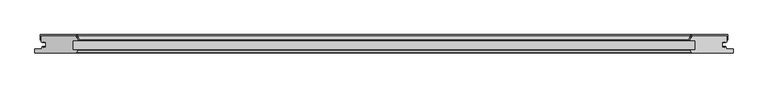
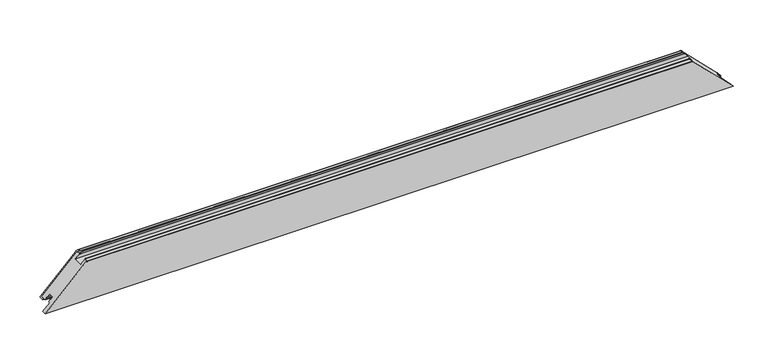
"""IFC4 building model written with IfcOpenShell, lengths in millimetres: proxy geometry, Weiku - Montante - Folha 02.2.01.019-039 : Weiku - Montante - Folha 02.2.01.019-039."""

import ifcopenshell
import ifcopenshell.guid

model = None  # the IFC model being written
_history = None  # IfcOwnerHistory: only IFC2X3 demands one
_inside = {}  # id of a spatial element -> (the spatial element, [elements in it])
_under = {}  # id of a project, library or spatial element -> (it, [spatial elements below it])
_declared = {}  # id of a project -> (the project, [libraries it declares])
_typed = {}  # id of a type object -> (the type object, [elements of that type])
_made_of = {}  # id of a material, layer set ... -> (it, [elements and type objects made of it])


def new_model(schema):
    """Start an empty IFC model of exactly this schema.

    Asked for "IFC4X3", IfcOpenShell would pick the latest addendum, in which some entities
    have other attributes; the version numbers below select the first issue.
    IFC2X3 requires an IfcOwnerHistory on every rooted entity: one is made here for all.
    """
    global model, _history
    if schema == "IFC4X3":
        model = ifcopenshell.file(schema_version=(4, 3, 0, 0))
    else:
        model = ifcopenshell.file(schema=schema)
    _inside.clear()
    _under.clear()
    _declared.clear()
    _typed.clear()
    _made_of.clear()
    _history = None
    if model.schema == "IFC2X3":
        org = make("IfcOrganization", Name="unknown")
        user = make(
            "IfcPersonAndOrganization",
            ThePerson=make("IfcPerson", FamilyName="unknown"),
            TheOrganization=org,
        )
        app = make(
            "IfcApplication",
            ApplicationDeveloper=org,
            Version="unknown",
            ApplicationFullName="unknown",
            ApplicationIdentifier="unknown",
        )
        _history = make(
            "IfcOwnerHistory",
            OwningUser=user,
            OwningApplication=app,
            ChangeAction="ADDED",
            CreationDate=0,
        )
    return model


def make(cls, **values):
    """One entity of the class cls with the attributes given. An attribute that is None is left unset."""
    return model.create_entity(
        cls, **{name: value for name, value in values.items() if value is not None}
    )


def rooted(cls, **values):
    """An entity with a GlobalId (a new one), such as an element, a storey or a relation."""
    return make(cls, GlobalId=ifcopenshell.guid.new(), OwnerHistory=_history, **values)


def si_unit(unit_type, name, prefix=None):
    """IfcSIUnit, for example si_unit("LENGTHUNIT", "METRE", prefix="MILLI")."""
    return make("IfcSIUnit", UnitType=unit_type, Prefix=prefix, Name=name)


def assignment(units):
    """IfcUnitAssignment: the units of a project."""
    return None if units is None else make("IfcUnitAssignment", Units=units)


def point(xyz):
    """IfcCartesianPoint."""
    return None if xyz is None else make("IfcCartesianPoint", Coordinates=xyz)


def direction(xyz):
    """IfcDirection."""
    return None if xyz is None else make("IfcDirection", DirectionRatios=xyz)


def frame(location, z_axis=None, x_axis=None):
    """IfcAxis2Placement3D, a coordinate frame: its origin and axes. An axis left out is left unset."""
    return make(
        "IfcAxis2Placement3D",
        Location=point(location),
        Axis=direction(z_axis),
        RefDirection=direction(x_axis),
    )


def origin():
    """The frame at (0, 0, 0) with its axes left unset."""
    return frame((0.0, 0.0, 0.0))


def place(relative_to, where):
    """IfcLocalPlacement: puts the frame where relative to a parent placement (None: the world)."""
    return make(
        "IfcLocalPlacement", PlacementRelTo=relative_to, RelativePlacement=where
    )


def context(
    kind, dimensions, precision=None, world=None, true_north=None, identifier=None
):
    """IfcGeometricRepresentationContext, for example the 3D "Model" context."""
    return make(
        "IfcGeometricRepresentationContext",
        ContextIdentifier=identifier,
        ContextType=kind,
        CoordinateSpaceDimension=dimensions,
        Precision=precision,
        WorldCoordinateSystem=world,
        TrueNorth=true_north,
    )


def project(units=None, contexts=None):
    """IfcProject with its units and contexts."""
    return rooted(
        "IfcProject",
        Name="project",
        RepresentationContexts=contexts,
        UnitsInContext=assignment(units),
    )


def spatial(cls, under=None, at=None, **own):
    """A site, building, storey or space (cls), placed at a placement, below another one or the project."""
    s = rooted(cls, ObjectPlacement=at, **own)
    if under is not None:
        _under.setdefault(under.id(), (under, []))[1].append(s)
    return s


def polyline(points):
    """IfcPolyline through the points."""
    return make("IfcPolyline", Points=[point(p) for p in points])


def ellipse_curve(where, semi_axis1, semi_axis2):
    """IfcEllipse in the frame where."""
    return make(
        "IfcEllipse", Position=where, SemiAxis1=semi_axis1, SemiAxis2=semi_axis2
    )


def shape(context_of_items, identifier, shape_type, items):
    """IfcShapeRepresentation: the items that make up one representation, for example the "Body"."""
    return make(
        "IfcShapeRepresentation",
        ContextOfItems=context_of_items,
        RepresentationIdentifier=identifier,
        RepresentationType=shape_type,
        Items=items,
    )


def source(mapping_origin, context_of_items, identifier, shape_type, items):
    """IfcRepresentationMap: a shape defined once, which mapped items show again and again."""
    return make(
        "IfcRepresentationMap",
        MappingOrigin=mapping_origin,
        MappedRepresentation=shape(context_of_items, identifier, shape_type, items),
    )


def transform(
    local_origin,
    x_axis=None,
    y_axis=None,
    z_axis=None,
    scale=None,
    scale2=None,
    scale3=None,
    uniform=True,
):
    """IfcCartesianTransformationOperator3D, or its non-uniform kind. x_axis, y_axis, z_axis: its Axis1, 2, 3."""
    if uniform:
        return make(
            "IfcCartesianTransformationOperator3D",
            Axis1=direction(x_axis),
            Axis2=direction(y_axis),
            LocalOrigin=point(local_origin),
            Scale=scale,
            Axis3=direction(z_axis),
        )
    return make(
        "IfcCartesianTransformationOperator3DnonUniform",
        Axis1=direction(x_axis),
        Axis2=direction(y_axis),
        LocalOrigin=point(local_origin),
        Scale=scale,
        Axis3=direction(z_axis),
        Scale2=scale2,
        Scale3=scale3,
    )


def mapped(mapping_source, mapping_target):
    """IfcMappedItem: shows the shape of a source again, moved by a transform."""
    return make(
        "IfcMappedItem", MappingSource=mapping_source, MappingTarget=mapping_target
    )


def made_of(thing, what):
    """Note that an element or type object is made of a material, layer set ...; save() writes the relation."""
    if what is not None:
        _made_of.setdefault(what.id(), (what, []))[1].append(thing)
    return thing


def element(
    cls,
    number,
    at=None,
    inside=None,
    cuts=None,
    type_object=None,
    material=None,
    context=None,
    identifier="Body",
    shape_type=None,
    held_by="IfcProductDefinitionShape",
    body=None,
    shapes=None,
    **own,
):
    """One element of the class cls, such as IfcWall. Its Tag is "e" and its number.

    at: its placement. inside: the storey or other place that contains it. cuts: it is an
    opening in that element (IfcRelVoidsElement). A single representation is given by context,
    identifier, shape_type and body (its items); several are given by shapes. held_by: the class
    of the entity that holds the representations. save() writes the other relations.
    """
    e = rooted(cls, Tag="e%d" % number, ObjectPlacement=at, **own)
    if body is not None:
        shapes = [shape(context, identifier, shape_type, body)]
    if shapes is not None:
        e.Representation = make(held_by, Representations=shapes)
    if inside is not None:
        _inside.setdefault(inside.id(), (inside, []))[1].append(e)
    if cuts is not None:
        rooted(
            "IfcRelVoidsElement", RelatingBuildingElement=cuts, RelatedOpeningElement=e
        )
    if type_object is not None:
        _typed.setdefault(type_object.id(), (type_object, []))[1].append(e)
    return made_of(e, material)


def aggregate(whole, parts):
    """IfcRelAggregates: a whole, such as a stair, and the parts it consists of."""
    return rooted("IfcRelAggregates", RelatingObject=whole, RelatedObjects=parts)


def save(model, path):
    """Write the relations noted so far, then the file.

    IfcRelAggregates (storeys below a building ...), IfcRelContainedInSpatialStructure (elements
    in a storey), IfcRelDefinesByType, IfcRelAssociatesMaterial and IfcRelDeclares: one each for
    every whole, place, type object, material and project.
    """
    for whole, parts in _under.values():
        aggregate(whole, parts)
    for where, things in _inside.values():
        rooted(
            "IfcRelContainedInSpatialStructure",
            RelatedElements=things,
            RelatingStructure=where,
        )
    for kind, things in _typed.values():
        rooted("IfcRelDefinesByType", RelatedObjects=things, RelatingType=kind)
    for what, things in _made_of.values():
        rooted("IfcRelAssociatesMaterial", RelatedObjects=things, RelatingMaterial=what)
    for by, libraries in _declared.values():
        rooted("IfcRelDeclares", RelatingContext=by, RelatedDefinitions=libraries)
    model.write(path)


def plane_surface(at):
    """IfcPlane: the flat surface through the origin of the frame at, square to its z axis."""
    return make("IfcPlane", Position=at)


def cylinder_surface(at, radius):
    """IfcCylindricalSurface: all points at the distance radius from the z axis of the frame at."""
    return make("IfcCylindricalSurface", Position=at, Radius=radius)


def revolved_surface(curve, axis_point, axis_direction):
    """IfcSurfaceOfRevolution: the curve turned about the line through axis_point along axis_direction."""
    return make(
        "IfcSurfaceOfRevolution",
        SweptCurve=make("IfcArbitraryOpenProfileDef", ProfileType="CURVE", Curve=curve),
        AxisPosition=make("IfcAxis1Placement", Location=point(axis_point), Axis=direction(axis_direction)),
    )


def advanced_brep(points, edges, surfaces, faces):
    """IfcAdvancedBrep: a solid bounded by faces that lie on surfaces and meet in shared edges.

    An edge is (start, end): straight between two places in points (the first is 0);
    or (start, end, curve); or (start, end, curve, False) where it runs against its curve.
    A face is (place in surfaces, loops), or (place, loops, False) where it looks against
    its surface's normal. A loop lists edges by number (the first is 1), with a minus sign
    where the edge is run from its end to its start. The first loop is the outer one.
    """
    corners = [point(p) for p in points]
    vertices = [make("IfcVertexPoint", VertexGeometry=c) for c in corners]
    made = []
    for start, end, *more in edges:
        made.append(
            make(
                "IfcEdgeCurve",
                EdgeStart=vertices[start],
                EdgeEnd=vertices[end],
                EdgeGeometry=more[0] if more else make("IfcPolyline", Points=[corners[start], corners[end]]),
                SameSense=more[1] if len(more) > 1 else True,
            )
        )
    hull = []
    for where, loops, *sense in faces:
        bounds = []
        for j, loop in enumerate(loops):
            ring = [make("IfcOrientedEdge", EdgeElement=made[abs(k) - 1], Orientation=k > 0) for k in loop]
            bounds.append(
                make(
                    "IfcFaceOuterBound" if j == 0 else "IfcFaceBound",
                    Bound=make("IfcEdgeLoop", EdgeList=ring),
                    Orientation=True,
                )
            )
        hull.append(make("IfcAdvancedFace", Bounds=bounds, FaceSurface=surfaces[where], SameSense=sense[0] if sense else True))
    return make("IfcAdvancedBrep", Outer=make("IfcClosedShell", CfsFaces=hull))


def generic_models_20642530(model_context):
    return source(origin(), model_context, "Body", "AdvancedBrep", [
        advanced_brep(
        [(1003.5000338, 50.0, 17.9999662), (901.9977922, 50.0, 119.5022078), (899.1000147, 47.7764571, 122.3999853), (896.5150961, 38.1294095, 124.9849039), (896.998059, 37.5, 124.501941), (910.498059, 37.5, 111.001941), (910.498059, 9.5, 111.001941), (897.7114874, 9.5, 123.7885126), (896.5493385, 7.617411, 124.9506615), (900.0913247, 0.5518546, 121.4086753), (900.9852854, 0.0, 120.5147146), (1021.5, 0.0, 0.0), (1021.5, 12.5, 0.0), (1001.5, 12.5, 20.0), (1001.5, 16.9, 20.0), (999.3, 16.9, 22.2), (999.3, 18.9, 22.2), (996.5, 18.9, 25.0), (996.5, 16.9, 25.0), (990.0, 16.9, 31.5), (990.0, 33.1, 31.5), (996.5, 33.1, 25.0), (996.5, 31.1, 25.0), (999.3, 31.1, 22.2), (999.3, 33.1, 22.2), (1003.5000338, 33.1, 17.9999662), (-901.9977922, 50.0, 119.5022078), (-1003.5000338, 50.0, 17.9999662), (-1003.5000338, 33.1, 17.9999662), (-999.3, 33.1, 22.2), (-999.3, 31.1, 22.2), (-996.5, 31.1, 25.0), (-996.5, 33.1, 25.0), (-990.0, 33.1, 31.5), (-990.0, 16.9, 31.5), (-996.5, 16.9, 25.0), (-996.5, 18.9, 25.0), (-999.3, 18.9, 22.2), (-999.3, 16.9, 22.2), (-1001.5, 16.9, 20.0), (-1001.5, 12.5, 20.0), (-1021.5, 12.5, 0.0), (-1021.5, 0.0, 0.0), (-900.9852854, 0.0, 120.5147146), (-900.0913247, 0.5518546, 121.4086753), (-896.5493385, 7.617411, 124.9506615), (-897.7114874, 9.5, 123.7885126), (-910.498059, 9.5, 111.001941), (-910.498059, 37.5, 111.001941), (-896.998059, 37.5, 124.501941), (-896.5150961, 38.1294095, 124.9849039), (-899.1000147, 47.7764571, 122.3999853)],
        [
            (0, 1),
            (1, 2, ellipse_curve(frame((901.9977922, 47.0, 119.5022078), z_axis=(0.7071067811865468, 0.0, 0.7071067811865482), x_axis=(-0.7071067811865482, 0.0, 0.7071067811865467)), 4.2426407, 3.0)),
            (2, 3),
            (3, 4, ellipse_curve(frame((896.998059, 38.0, 124.501941), z_axis=(0.7071067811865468, 0.0, 0.7071067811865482), x_axis=(-0.7071067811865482, 0.0, 0.7071067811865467)), 0.7071068, 0.5)),
            (4, 5),
            (5, 6),
            (6, 7),
            (7, 8, ellipse_curve(frame((897.7114874, 8.2, 123.7885126), z_axis=(0.7071067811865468, 0.0, 0.7071067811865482), x_axis=(-0.7071067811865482, 0.0, 0.7071067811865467)), 1.8384776, 1.3)),
            (8, 9),
            (9, 10, ellipse_curve(frame((900.9852854, 1.0, 120.5147146), z_axis=(0.7071067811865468, 0.0, 0.7071067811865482), x_axis=(-0.7071067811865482, 0.0, 0.7071067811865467)), 1.4142136, 1.0)),
            (10, 11),
            (11, 12),
            (12, 13),
            (13, 14),
            (14, 15),
            (15, 16),
            (16, 17),
            (17, 18),
            (18, 19),
            (19, 20),
            (20, 21),
            (21, 22),
            (22, 23),
            (23, 24),
            (24, 25),
            (25, 0),
            (26, 27),
            (27, 28),
            (28, 29),
            (29, 30),
            (30, 31),
            (31, 32),
            (32, 33),
            (33, 34),
            (34, 35),
            (35, 36),
            (36, 37),
            (37, 38),
            (38, 39),
            (39, 40),
            (40, 41),
            (41, 42),
            (42, 43),
            (43, 44, ellipse_curve(frame((-900.9852854, 1.0, 120.5147146), z_axis=(-0.7071067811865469, 0.0, 0.7071067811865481), x_axis=(-0.7071067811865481, 0.0, -0.7071067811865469)), 1.4142136, 1.0)),
            (44, 45),
            (45, 46, ellipse_curve(frame((-897.7114874, 8.2, 123.7885126), z_axis=(-0.7071067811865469, 0.0, 0.7071067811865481), x_axis=(-0.7071067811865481, 0.0, -0.7071067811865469)), 1.8384776, 1.3)),
            (46, 47),
            (47, 48),
            (48, 49),
            (49, 50, ellipse_curve(frame((-896.998059, 38.0, 124.501941), z_axis=(-0.7071067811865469, 0.0, 0.7071067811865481), x_axis=(-0.7071067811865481, 0.0, -0.7071067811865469)), 0.7071068, 0.5)),
            (50, 51),
            (51, 26, ellipse_curve(frame((-901.9977922, 47.0, 119.5022078), z_axis=(-0.7071067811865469, 0.0, 0.7071067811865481), x_axis=(-0.7071067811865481, 0.0, -0.7071067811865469)), 4.2426407, 3.0)),
            (0, 27),
            (26, 1),
            (25, 28),
            (24, 29),
            (23, 30),
            (22, 31),
            (21, 32),
            (20, 33),
            (19, 34),
            (18, 35),
            (17, 36),
            (16, 37),
            (15, 38),
            (14, 39),
            (13, 40),
            (12, 41),
            (11, 42),
            (10, 43),
            (9, 44),
            (8, 45),
            (7, 46),
            (6, 47),
            (5, 48),
            (4, 49),
            (3, 50),
            (2, 51),
        ],
        [
            plane_surface(frame((891.5, -13.0, 130.0), z_axis=(0.7071067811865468, 0.0, 0.7071067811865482), x_axis=(0.0, 1.0, 0.0))),
            plane_surface(frame((-1049.7842712, -13.0, -28.2842712), z_axis=(-0.7071067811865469, 0.0, 0.7071067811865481), x_axis=(0.0, 1.0, 0.0))),
            plane_surface(frame((-1021.5, 50.0, 119.5022078), z_axis=(0.0, 1.0, 0.0), x_axis=(1.0, 0.0, 0.0))),
            plane_surface(frame((-1021.5, 50.0, 17.9999662), z_axis=(0.0, 0.0, -1.0), x_axis=(1.0, 0.0, 0.0))),
            plane_surface(frame((-1021.5, 33.1, 17.9999662), z_axis=(0.0, -1.0, 0.0), x_axis=(1.0, 0.0, 0.0))),
            plane_surface(frame((-1021.5, 33.1, 22.2), z_axis=(0.0, 0.0, -1.0), x_axis=(1.0, 0.0, 0.0))),
            plane_surface(frame((-1021.5, 31.1, 22.2), z_axis=(0.0, -1.0, 0.0), x_axis=(1.0, 0.0, 0.0))),
            plane_surface(frame((-1021.5, 31.1, 25.0), z_axis=(0.0, 0.0, 1.0), x_axis=(1.0, 0.0, 0.0))),
            plane_surface(frame((-1021.5, 33.1, 25.0), z_axis=(0.0, -1.0, 0.0), x_axis=(1.0, 0.0, 0.0))),
            plane_surface(frame((-1021.5, 33.1, 31.5), z_axis=(0.0, 0.0, -1.0), x_axis=(1.0, 0.0, 0.0))),
            plane_surface(frame((-1021.5, 16.9, 31.5), z_axis=(0.0, 1.0, 0.0), x_axis=(1.0, 0.0, 0.0))),
            plane_surface(frame((-1021.5, 16.9, 25.0), z_axis=(0.0, 0.0, 1.0), x_axis=(1.0, 0.0, 0.0))),
            plane_surface(frame((-1021.5, 18.9, 25.0), z_axis=(0.0, 1.0, 0.0), x_axis=(1.0, 0.0, 0.0))),
            plane_surface(frame((-1021.5, 18.9, 22.2), z_axis=(0.0, 0.0, -1.0), x_axis=(1.0, 0.0, 0.0))),
            plane_surface(frame((-1021.5, 16.9, 22.2), z_axis=(0.0, 1.0, 0.0), x_axis=(1.0, 0.0, 0.0))),
            plane_surface(frame((-1021.5, 16.9, 20.0), z_axis=(0.0, 0.0, -1.0), x_axis=(1.0, 0.0, 0.0))),
            plane_surface(frame((-1021.5, 12.5, 20.0), z_axis=(0.0, 1.0, 0.0), x_axis=(1.0, 0.0, 0.0))),
            plane_surface(frame((-1021.5, 12.5, 0.0), z_axis=(0.0, 0.0, -1.0), x_axis=(1.0, 0.0, 0.0))),
            plane_surface(frame((-1021.5, 0.0, 0.0), z_axis=(0.0, -1.0, 0.0), x_axis=(1.0, 0.0, 0.0))),
            cylinder_surface(frame((-1021.5, 1.0, 120.5147146), z_axis=(-1.0, 0.0, 0.0), x_axis=(0.0, 1.0, 0.0)), 1.0),
            plane_surface(frame((-1021.5, 0.5518546, 121.4086753), z_axis=(0.0, -0.4481453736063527, 0.8939606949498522), x_axis=(1.0, 0.0, 0.0))),
            cylinder_surface(frame((-1021.5, 8.2, 123.7885126), z_axis=(-1.0, 0.0, 0.0), x_axis=(0.0, 1.0, 0.0)), 1.3),
            plane_surface(frame((-1021.5, 9.5, 123.7885126), z_axis=(0.0, 1.0, 0.0), x_axis=(1.0, 0.0, 0.0))),
            plane_surface(frame((-1021.5, 9.5, 111.001941), z_axis=(0.0, 0.0, 1.0), x_axis=(1.0, 0.0, 0.0))),
            plane_surface(frame((-1021.5, 37.5, 111.001941), z_axis=(0.0, -1.0, 0.0), x_axis=(1.0, 0.0, 0.0))),
            cylinder_surface(frame((-1021.5, 38.0, 124.501941), z_axis=(-1.0, 0.0, 0.0), x_axis=(0.0, 1.0, 0.0)), 0.5),
            plane_surface(frame((-1021.5, 38.1294095, 124.9849039), z_axis=(0.0, 0.2588190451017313, 0.9659258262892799), x_axis=(1.0, 0.0, 0.0))),
            cylinder_surface(frame((-1021.5, 47.0, 119.5022078), z_axis=(-1.0, 0.0, 0.0), x_axis=(0.0, 1.0, 0.0)), 3.0),
        ],
        [
            (0, [[1, 2, 3, 4, 5, 6, 7, 8, 9, 10, 11, 12, 13, 14, 15, 16, 17, 18, 19, 20, 21, 22, 23, 24, 25, 26]]),
            (1, [[27, 28, 29, 30, 31, 32, 33, 34, 35, 36, 37, 38, 39, 40, 41, 42, 43, 44, 45, 46, 47, 48, 49, 50, 51, 52]]),
            (2, [[-1, 53, -27, 54]]),
            (3, [[-26, 55, -28, -53]]),
            (4, [[-25, 56, -29, -55]]),
            (5, [[-24, 57, -30, -56]]),
            (6, [[-23, 58, -31, -57]]),
            (7, [[-22, 59, -32, -58]]),
            (8, [[-21, 60, -33, -59]]),
            (9, [[-20, 61, -34, -60]]),
            (10, [[-19, 62, -35, -61]]),
            (11, [[-18, 63, -36, -62]]),
            (12, [[-17, 64, -37, -63]]),
            (13, [[-16, 65, -38, -64]]),
            (14, [[-15, 66, -39, -65]]),
            (15, [[-14, 67, -40, -66]]),
            (16, [[68, -41, -67, -13]]),
            (17, [[-68, -12, 69, -42]]),
            (18, [[-69, -11, 70, -43]]),
            (19, [[-10, 71, -44, -70]]),
            (20, [[-9, 72, -45, -71]]),
            (21, [[-8, 73, -46, -72]]),
            (22, [[-7, 74, -47, -73]]),
            (23, [[-6, 75, -48, -74]]),
            (24, [[-5, 76, -49, -75]]),
            (25, [[-4, 77, -50, -76]]),
            (26, [[-3, 78, -51, -77]]),
            (27, [[-2, -54, -52, -78]]),
        ],
    ),
        advanced_brep(
        [(901.9977922, 50.0, 119.5022078), (1003.5000338, 50.0, 17.9999662), (1003.5000338, 38.5, 17.9999662), (1006.5000338, 38.5, 14.9999662), (1006.5000338, 52.0, 14.9999662), (1004.5000338, 54.0, 16.9999662), (900.4631382, 54.0, 121.0368618), (895.633509, 50.2940952, 125.866491), (892.2746919, 37.758819, 129.2253081), (893.2406177, 36.5, 128.2593823), (897.8540691, 36.5, 123.6459309), (897.8540691, 37.5, 123.6459309), (896.998059, 37.5, 124.501941), (896.5150961, 38.1294095, 124.9849039), (899.1000147, 47.7764571, 122.3999853), (-1003.5000338, 50.0, 17.9999662), (-901.9977922, 50.0, 119.5022078), (-899.1000147, 47.7764571, 122.3999853), (-896.5150961, 38.1294095, 124.9849039), (-896.998059, 37.5, 124.501941), (-897.8540691, 37.5, 123.6459309), (-897.8540691, 36.5, 123.6459309), (-893.2406177, 36.5, 128.2593823), (-892.2746919, 37.758819, 129.2253081), (-895.633509, 50.2940952, 125.866491), (-900.4631382, 54.0, 121.0368618), (-1004.5000338, 54.0, 16.9999662), (-1006.5000338, 52.0, 14.9999662), (-1006.5000338, 38.5, 14.9999662), (-1003.5000338, 38.5, 17.9999662)],
        [
            (0, 1),
            (1, 2),
            (2, 3),
            (3, 4),
            (4, 5, ellipse_curve(frame((1004.5000338, 52.0, 16.9999662), z_axis=(0.7071067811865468, 0.0, 0.7071067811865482), x_axis=(-0.7071067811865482, 0.0, 0.7071067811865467)), 2.8284271, 2.0)),
            (5, 6),
            (6, 7, ellipse_curve(frame((900.4631382, 49.0, 121.0368618), z_axis=(0.7071067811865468, 0.0, 0.7071067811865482), x_axis=(-0.7071067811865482, 0.0, 0.7071067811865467)), 7.0710678, 5.0)),
            (7, 8),
            (8, 9, ellipse_curve(frame((893.2406177, 37.5, 128.2593823), z_axis=(0.7071067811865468, 0.0, 0.7071067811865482), x_axis=(-0.7071067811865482, 0.0, 0.7071067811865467)), 1.4142136, 1.0)),
            (9, 10),
            (10, 11, ellipse_curve(frame((897.8540691, 37.0, 123.6459309), z_axis=(0.7071067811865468, 0.0, 0.7071067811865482), x_axis=(-0.7071067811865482, 0.0, 0.7071067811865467)), 0.7071068, 0.5)),
            (11, 12),
            (12, 13, ellipse_curve(frame((896.998059, 38.0, 124.501941), z_axis=(-0.7071067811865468, 0.0, -0.7071067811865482), x_axis=(0.7071067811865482, 0.0, -0.7071067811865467)), 0.7071068, 0.5)),
            (13, 14),
            (14, 0, ellipse_curve(frame((901.9977922, 47.0, 119.5022078), z_axis=(-0.7071067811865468, 0.0, -0.7071067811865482), x_axis=(0.7071067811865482, 0.0, -0.7071067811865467)), 4.2426407, 3.0)),
            (15, 16),
            (16, 17, ellipse_curve(frame((-901.9977922, 47.0, 119.5022078), z_axis=(0.7071067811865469, 0.0, -0.7071067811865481), x_axis=(0.7071067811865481, 0.0, 0.7071067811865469)), 4.2426407, 3.0)),
            (17, 18),
            (18, 19, ellipse_curve(frame((-896.998059, 38.0, 124.501941), z_axis=(0.7071067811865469, 0.0, -0.7071067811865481), x_axis=(0.7071067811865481, 0.0, 0.7071067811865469)), 0.7071068, 0.5)),
            (19, 20),
            (20, 21, ellipse_curve(frame((-897.8540691, 37.0, 123.6459309), z_axis=(-0.7071067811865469, 0.0, 0.7071067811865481), x_axis=(-0.7071067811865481, 0.0, -0.7071067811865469)), 0.7071068, 0.5)),
            (21, 22),
            (22, 23, ellipse_curve(frame((-893.2406177, 37.5, 128.2593823), z_axis=(-0.7071067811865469, 0.0, 0.7071067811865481), x_axis=(-0.7071067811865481, 0.0, -0.7071067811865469)), 1.4142136, 1.0)),
            (23, 24),
            (24, 25, ellipse_curve(frame((-900.4631382, 49.0, 121.0368618), z_axis=(-0.7071067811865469, 0.0, 0.7071067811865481), x_axis=(-0.7071067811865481, 0.0, -0.7071067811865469)), 7.0710678, 5.0)),
            (25, 26),
            (26, 27, ellipse_curve(frame((-1004.5000338, 52.0, 16.9999662), z_axis=(-0.7071067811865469, 0.0, 0.7071067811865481), x_axis=(-0.7071067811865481, 0.0, -0.7071067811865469)), 2.8284271, 2.0)),
            (27, 28),
            (28, 29),
            (29, 15),
            (0, 16),
            (15, 1),
            (14, 17),
            (13, 18),
            (12, 19),
            (11, 20),
            (10, 21),
            (9, 22),
            (8, 23),
            (7, 24),
            (6, 25),
            (5, 26),
            (4, 27),
            (3, 28),
            (2, 29),
        ],
        [
            plane_surface(frame((891.5, -13.0, 130.0), z_axis=(0.7071067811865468, 0.0, 0.7071067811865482), x_axis=(0.0, 1.0, 0.0))),
            plane_surface(frame((-1049.7842712, -13.0, -28.2842712), z_axis=(-0.7071067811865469, 0.0, 0.7071067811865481), x_axis=(0.0, 1.0, 0.0))),
            plane_surface(frame((-1041.5, 50.0, 17.9999662), z_axis=(0.0, -1.0, 0.0), x_axis=(1.0, 0.0, 0.0))),
            revolved_surface(polyline([(904.9977922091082, 50.0, 119.5022078), (-904.9977922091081, 50.0, 119.5022078)]), (-1041.5, 47.0, 119.5022078), (1.0, 0.0, 0.0)),
            plane_surface(frame((-1041.5, 47.7764571, 122.3999853), z_axis=(0.0, -0.25881904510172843, -0.9659258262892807), x_axis=(1.0, 0.0, 0.0))),
            revolved_surface(polyline([(897.4980590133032, 38.5, 124.501941), (-897.4980590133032, 38.5, 124.501941)]), (-1041.5, 38.0, 124.501941), (1.0, 0.0, 0.0)),
            plane_surface(frame((-1041.5, 37.5, 124.501941), z_axis=(0.0, 1.0, 0.0), x_axis=(1.0, 0.0, 0.0))),
            cylinder_surface(frame((-1041.5, 37.0, 123.6459309), z_axis=(-1.0, 0.0, 0.0), x_axis=(0.0, 1.0, 0.0)), 0.5),
            plane_surface(frame((-1041.5, 36.5, 123.6459309), z_axis=(0.0, -1.0, 0.0), x_axis=(1.0, 0.0, 0.0))),
            cylinder_surface(frame((-1041.5, 37.5, 128.2593823), z_axis=(-1.0, 0.0, 0.0), x_axis=(0.0, 1.0, 0.0)), 1.0),
            plane_surface(frame((-1041.5, 37.758819, 129.2253081), z_axis=(0.0, 0.25881904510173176, 0.9659258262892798), x_axis=(1.0, 0.0, 0.0))),
            cylinder_surface(frame((-1041.5, 49.0, 121.0368618), z_axis=(-1.0, 0.0, 0.0), x_axis=(0.0, 1.0, 0.0)), 5.0),
            plane_surface(frame((-1041.5, 54.0, 121.0368618), z_axis=(0.0, 1.0, 0.0), x_axis=(1.0, 0.0, 0.0))),
            cylinder_surface(frame((-1041.5, 52.0, 16.9999662), z_axis=(-1.0, 0.0, 0.0), x_axis=(0.0, 1.0, 0.0)), 2.0),
            plane_surface(frame((-1041.5, 52.0, 14.9999662), z_axis=(0.0, 0.0, -1.0), x_axis=(1.0, 0.0, 0.0))),
            plane_surface(frame((-1041.5, 38.5, 14.9999662), z_axis=(0.0, -1.0, 0.0), x_axis=(1.0, 0.0, 0.0))),
            plane_surface(frame((-1041.5, 38.5, 17.9999662), z_axis=(0.0, 0.0, 1.0), x_axis=(1.0, 0.0, 0.0))),
        ],
        [
            (0, [[1, 2, 3, 4, 5, 6, 7, 8, 9, 10, 11, 12, 13, 14, 15]]),
            (1, [[16, 17, 18, 19, 20, 21, 22, 23, 24, 25, 26, 27, 28, 29, 30]]),
            (2, [[-1, 31, -16, 32]]),
            (3, [[-15, 33, -17, -31]]),
            (4, [[-14, 34, -18, -33]]),
            (5, [[-13, 35, -19, -34]]),
            (6, [[-12, 36, -20, -35]]),
            (7, [[-11, 37, -21, -36]]),
            (8, [[-10, 38, -22, -37]]),
            (9, [[-9, 39, -23, -38]]),
            (10, [[-8, 40, -24, -39]]),
            (11, [[-7, 41, -25, -40]]),
            (12, [[-6, 42, -26, -41]]),
            (13, [[-5, 43, -27, -42]]),
            (14, [[-4, 44, -28, -43]]),
            (15, [[-3, 45, -29, -44]]),
            (16, [[-2, -32, -30, -45]]),
        ],
    ),
    ])


if __name__ == "__main__":
    model = new_model("IFC4")
    model_context = context("Model", 3, world=origin())
    ifc_project = project(units=[si_unit("LENGTHUNIT", "METRE", prefix="MILLI")], contexts=[model_context])
    site = spatial("IfcSite", under=ifc_project)
    building = spatial("IfcBuilding", under=site)
    placement = place(None, origin())
    generic_models_shape = generic_models_20642530(model_context)
    element("IfcBuildingElementProxy", 1, Name="Weiku - Montante - Folha 02.2.01.019-039 : Weiku - Montante - Folha 02.2.01.019-039", ObjectType="Weiku - Montante - Folha 02.2.01.019-039 : Weiku - Montante - Folha 02.2.01.019-039", at=placement, inside=building, context=model_context, shape_type="MappedRepresentation", body=[
        mapped(generic_models_shape, transform((0.0, 0.0, 0.0), x_axis=(1.0, 0.0, 0.0), y_axis=(0.0, 1.0, 0.0), z_axis=(0.0, 0.0, 1.0))),
    ])
    save(model, "model.ifc")
